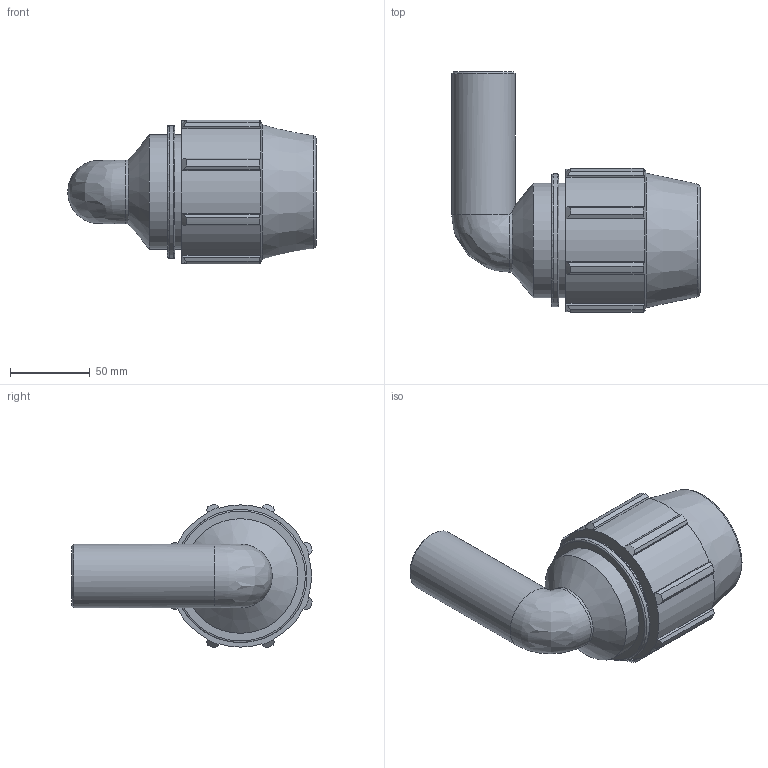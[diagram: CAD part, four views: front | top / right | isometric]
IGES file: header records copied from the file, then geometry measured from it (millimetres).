
Global section: file name: 073500050040_183500050040_0735060500400A.ipt; native system: Autodesk Inventor 2015; preprocessor: unknown; author: KIM; date: 20170608.042241; units: millimetre
Bounding box: 156 x 151.16 x 90.33 mm (x, y, z)
Volume: 481621.5 mm3; surface area: 84178.7 mm2
Topology: 1 solids, 1 shells, 82 faces, 231 edges, 154 vertices
Faces by surface type: plane 39, cylinder 21, cone 12, revolution 9, bspline 1
Full cylindrical faces by diameter (mm): 40 x1, 72 x2, 83.52 x1
